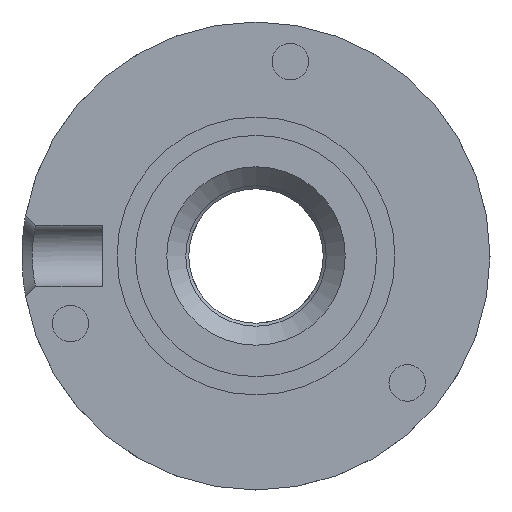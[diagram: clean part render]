
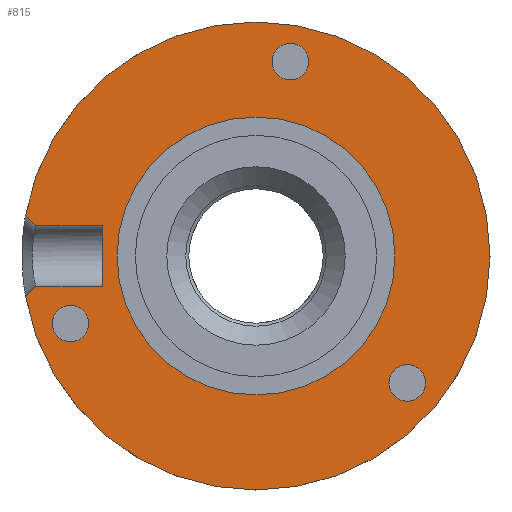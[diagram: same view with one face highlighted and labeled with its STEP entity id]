
A CAD part, left-side view. The second image highlights one B-rep face of the part: STEP entity #815.
In plain terms, the highlighted planar face has unit normal (-1, 0, 0).
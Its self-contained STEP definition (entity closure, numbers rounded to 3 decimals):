
#3 = LINE ( 'NONE', #160, #432 ) ;
#29 = VECTOR ( 'NONE', #1373, 1000. ) ;
#39 = DIRECTION ( 'NONE',  ( 0., 0., 1. ) ) ;
#58 = ORIENTED_EDGE ( 'NONE', *, *, #750, .F. ) ;
#101 = ORIENTED_EDGE ( 'NONE', *, *, #1568, .F. ) ;
#111 = CARTESIAN_POINT ( 'NONE',  ( 0., -10.342, -7.428 ) ) ;
#149 = DIRECTION ( 'NONE',  ( -1., 0., 0. ) ) ;
#160 = CARTESIAN_POINT ( 'NONE',  ( 0., 15.754, -2.793 ) ) ;
#178 = DIRECTION ( 'NONE',  ( 0., 0.707, -0.707 ) ) ;
#200 = LINE ( 'NONE', #1570, #751 ) ;
#235 = DIRECTION ( 'NONE',  ( 0., 0., 1. ) ) ;
#254 = EDGE_LOOP ( 'NONE', ( #1502 ) ) ;
#272 = AXIS2_PLACEMENT_3D ( 'NONE', #790, #149, #1901 ) ;
#294 = EDGE_CURVE ( 'NONE', #1388, #1529, #3, .T. ) ;
#299 = CIRCLE ( 'NONE', #754, 1.25 ) ;
#322 = VECTOR ( 'NONE', #2097, 1000. ) ;
#349 = FACE_BOUND ( 'NONE', #437, .T. ) ;
#357 = DIRECTION ( 'NONE',  ( 0., 0., 1. ) ) ;
#366 = EDGE_CURVE ( 'NONE', #1713, #1317, #774, .T. ) ;
#397 = AXIS2_PLACEMENT_3D ( 'NONE', #1650, #522, #357 ) ;
#398 = VERTEX_POINT ( 'NONE', #609 ) ;
#403 = CARTESIAN_POINT ( 'NONE',  ( 0., 0., 0. ) ) ;
#432 = VECTOR ( 'NONE', #178, 1000. ) ;
#437 = EDGE_LOOP ( 'NONE', ( #101 ) ) ;
#452 = VERTEX_POINT ( 'NONE', #1093 ) ;
#504 = AXIS2_PLACEMENT_3D ( 'NONE', #403, #2025, #235 ) ;
#522 = DIRECTION ( 'NONE',  ( -1., 0., 0. ) ) ;
#551 = EDGE_CURVE ( 'NONE', #398, #398, #1476, .T. ) ;
#565 = EDGE_LOOP ( 'NONE', ( #1275 ) ) ;
#587 = DIRECTION ( 'NONE',  ( 0., -0.707, -0.707 ) ) ;
#609 = CARTESIAN_POINT ( 'NONE',  ( 0., 0., 9.5 ) ) ;
#663 = CARTESIAN_POINT ( 'NONE',  ( 0., 0., 0. ) ) ;
#697 = LINE ( 'NONE', #1829, #1471 ) ;
#731 = ORIENTED_EDGE ( 'NONE', *, *, #896, .T. ) ;
#750 = EDGE_CURVE ( 'NONE', #1941, #1713, #1292, .T. ) ;
#751 = VECTOR ( 'NONE', #1779, 1000. ) ;
#754 = AXIS2_PLACEMENT_3D ( 'NONE', #965, #1769, #1166 ) ;
#762 = EDGE_LOOP ( 'NONE', ( #1693 ) ) ;
#774 = LINE ( 'NONE', #1439, #322 ) ;
#790 = CARTESIAN_POINT ( 'NONE',  ( 0., -2.344, 13.295 ) ) ;
#815 = ADVANCED_FACE ( 'NONE', ( #817, #349, #1578, #2044, #2016 ), #1290, .F. ) ;
#817 = FACE_BOUND ( 'NONE', #565, .T. ) ;
#829 = CARTESIAN_POINT ( 'NONE',  ( 0., 15.062, -2.1 ) ) ;
#841 = VERTEX_POINT ( 'NONE', #111 ) ;
#842 = CIRCLE ( 'NONE', #272, 1.25 ) ;
#880 = EDGE_CURVE ( 'NONE', #1417, #1417, #299, .T. ) ;
#896 = EDGE_CURVE ( 'NONE', #1941, #1388, #200, .T. ) ;
#965 = CARTESIAN_POINT ( 'NONE',  ( 0., 12.686, -4.617 ) ) ;
#997 = CARTESIAN_POINT ( 'NONE',  ( 0., 10.5, -2.1 ) ) ;
#1030 = EDGE_CURVE ( 'NONE', #1746, #1317, #697, .T. ) ;
#1033 = DIRECTION ( 'NONE',  ( -1., 0., 0. ) ) ;
#1093 = CARTESIAN_POINT ( 'NONE',  ( 0., -2.344, 14.545 ) ) ;
#1095 = EDGE_CURVE ( 'NONE', #1529, #1746, #1420, .T. ) ;
#1099 = CARTESIAN_POINT ( 'NONE',  ( 0., 10.5, -2.1 ) ) ;
#1166 = DIRECTION ( 'NONE',  ( 0., 0., 1. ) ) ;
#1183 = ORIENTED_EDGE ( 'NONE', *, *, #366, .F. ) ;
#1251 = ORIENTED_EDGE ( 'NONE', *, *, #1030, .T. ) ;
#1260 = CARTESIAN_POINT ( 'NONE',  ( 0., 12.686, -3.367 ) ) ;
#1268 = EDGE_LOOP ( 'NONE', ( #1608, #1251, #1183, #58, #731, #1633 ) ) ;
#1275 = ORIENTED_EDGE ( 'NONE', *, *, #880, .F. ) ;
#1290 = PLANE ( 'NONE',  #1302 ) ;
#1292 = LINE ( 'NONE', #1099, #29 ) ;
#1302 = AXIS2_PLACEMENT_3D ( 'NONE', #1593, #1751, #1411 ) ;
#1317 = VERTEX_POINT ( 'NONE', #1784 ) ;
#1373 = DIRECTION ( 'NONE',  ( 0., 0., 1. ) ) ;
#1388 = VERTEX_POINT ( 'NONE', #829 ) ;
#1411 = DIRECTION ( 'NONE',  ( 0., 0., -1. ) ) ;
#1417 = VERTEX_POINT ( 'NONE', #1260 ) ;
#1420 = CIRCLE ( 'NONE', #1811, 16. ) ;
#1439 = CARTESIAN_POINT ( 'NONE',  ( 0., 18., 2.1 ) ) ;
#1471 = VECTOR ( 'NONE', #587, 1000. ) ;
#1476 = CIRCLE ( 'NONE', #504, 9.5 ) ;
#1486 = CARTESIAN_POINT ( 'NONE',  ( 0., 15.754, -2.793 ) ) ;
#1491 = CIRCLE ( 'NONE', #397, 1.25 ) ;
#1502 = ORIENTED_EDGE ( 'NONE', *, *, #551, .F. ) ;
#1529 = VERTEX_POINT ( 'NONE', #1486 ) ;
#1567 = CARTESIAN_POINT ( 'NONE',  ( 0., 15.754, 2.793 ) ) ;
#1568 = EDGE_CURVE ( 'NONE', #841, #841, #1491, .T. ) ;
#1570 = CARTESIAN_POINT ( 'NONE',  ( 0., 0., -2.1 ) ) ;
#1578 = FACE_BOUND ( 'NONE', #762, .T. ) ;
#1593 = CARTESIAN_POINT ( 'NONE',  ( 0., 0., 0. ) ) ;
#1608 = ORIENTED_EDGE ( 'NONE', *, *, #1095, .T. ) ;
#1633 = ORIENTED_EDGE ( 'NONE', *, *, #294, .T. ) ;
#1650 = CARTESIAN_POINT ( 'NONE',  ( 0., -10.342, -8.678 ) ) ;
#1676 = CARTESIAN_POINT ( 'NONE',  ( 0., 10.5, 2.1 ) ) ;
#1693 = ORIENTED_EDGE ( 'NONE', *, *, #1772, .F. ) ;
#1713 = VERTEX_POINT ( 'NONE', #1676 ) ;
#1746 = VERTEX_POINT ( 'NONE', #1567 ) ;
#1751 = DIRECTION ( 'NONE',  ( 1., 0., 0. ) ) ;
#1769 = DIRECTION ( 'NONE',  ( -1., 0., 0. ) ) ;
#1772 = EDGE_CURVE ( 'NONE', #452, #452, #842, .T. ) ;
#1779 = DIRECTION ( 'NONE',  ( 0., 1., 0. ) ) ;
#1784 = CARTESIAN_POINT ( 'NONE',  ( 0., 15.062, 2.1 ) ) ;
#1811 = AXIS2_PLACEMENT_3D ( 'NONE', #663, #1033, #39 ) ;
#1829 = CARTESIAN_POINT ( 'NONE',  ( 0., 15.754, 2.793 ) ) ;
#1901 = DIRECTION ( 'NONE',  ( 0., 0., 1. ) ) ;
#1941 = VERTEX_POINT ( 'NONE', #997 ) ;
#2016 = FACE_OUTER_BOUND ( 'NONE', #1268, .T. ) ;
#2025 = DIRECTION ( 'NONE',  ( -1., 0., 0. ) ) ;
#2044 = FACE_BOUND ( 'NONE', #254, .T. ) ;
#2097 = DIRECTION ( 'NONE',  ( 0., 1., 0. ) ) ;
